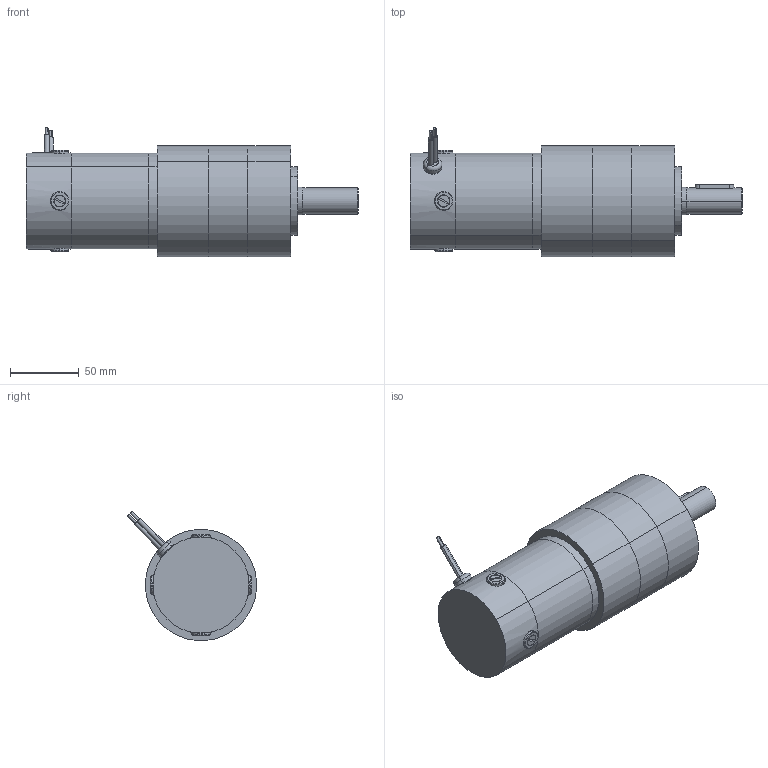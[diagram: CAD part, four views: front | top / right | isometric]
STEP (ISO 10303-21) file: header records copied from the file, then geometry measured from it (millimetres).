
FILE_DESCRIPTION (( 'STEP AP203' ), '1' );
FILE_NAME ('s27411bgp1.step', '2018-12-07T20:02:38', ( '' ), ( '' ), 'SwSTEP 2.0', 'SolidWorks 2017', '' );
FILE_SCHEMA (( 'CONFIG_CONTROL_DESIGN' ));
Length unit declared in the file: inch
Products named in the file (1): s27411bgp1
Bounding box: 241.3 x 93.8 x 93.8 mm (x, y, z)
Volume: 892907.8 mm3; surface area: 133565.7 mm2
Topology: 19 solids, 19 shells, 356 faces, 752 edges, 470 vertices
Faces by surface type: cylinder 151, plane 150, cone 45, torus 6, sphere 4
Entity records: 10015 total; most frequent: CARTESIAN_POINT 2104, DIRECTION 1771, ORIENTED_EDGE 1472, EDGE_CURVE 736, AXIS2_PLACEMENT_3D 708, VERTEX_POINT 470, EDGE_LOOP 424, FACE_OUTER_BOUND 356
